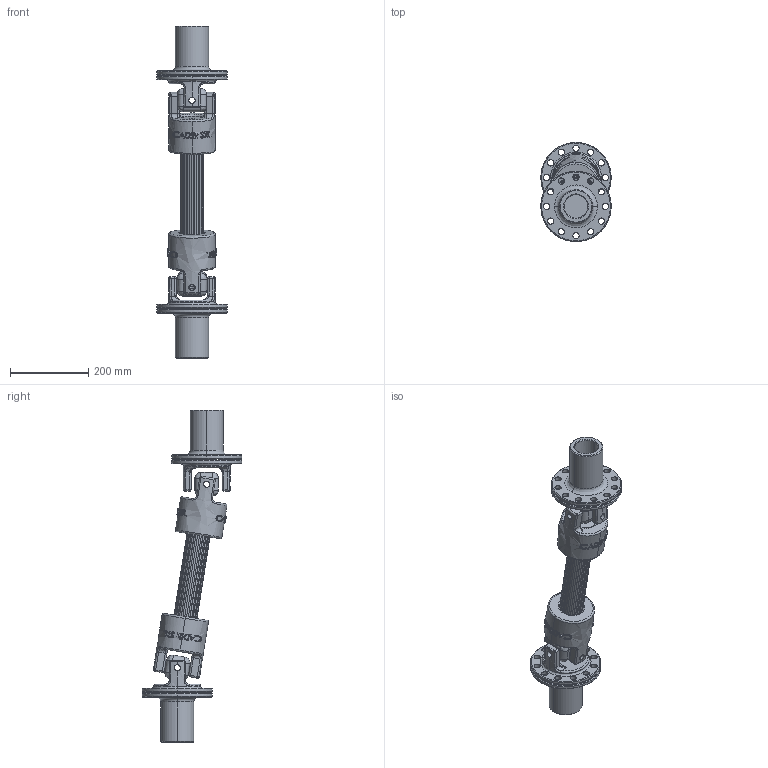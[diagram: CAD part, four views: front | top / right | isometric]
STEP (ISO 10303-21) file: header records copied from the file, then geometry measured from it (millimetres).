
FILE_DESCRIPTION((''),'2;1');
FILE_NAME('','2021-08-11T16:09:35',(''),(''),'','CADfix','');
FILE_SCHEMA(('AP242_MANAGED_MODEL_BASED_3D_ENGINEERING_MIM_LF { 1 0 10303 442 3 1 4 }'));
Length unit declared in the file: millimetre
Products named in the file (6): UJ1; UJ2; UJ3; UJ4; UJ5; UJ
Assembly tree (9 placements, depth 2):
  UJ
    UJ1  x2
    UJ2  x2
    UJ3  x2
    UJ4  x2
    UJ5
Bounding box: 180 x 254.96 x 850 mm (x, y, z)
Volume: 5099953 mm3; surface area: 680728.8 mm2
Topology: 9 solids, 9 shells, 1004 faces, 2596 edges, 1640 vertices
Faces by surface type: bspline 1004
Entity records: 26039 total; most frequent: CARTESIAN_POINT 16780, ORIENTED_EDGE 2828, EDGE_CURVE 1414, STYLED_ITEM 1086, VERTEX_POINT 900, EDGE_LOOP 628, FACE_OUTER_BOUND 543, ADVANCED_FACE 543
